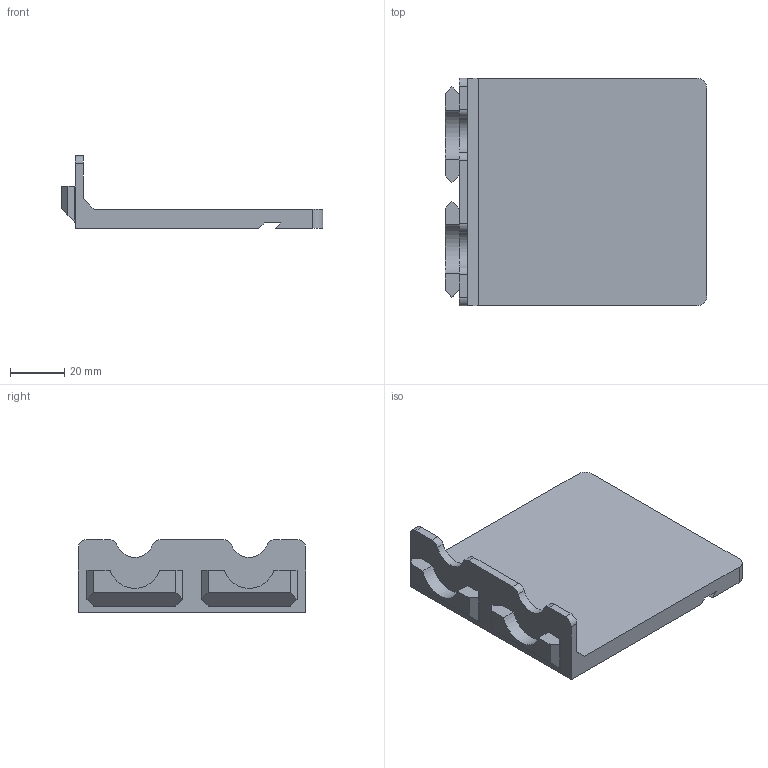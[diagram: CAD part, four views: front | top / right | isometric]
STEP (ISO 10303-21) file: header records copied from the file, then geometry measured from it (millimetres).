
FILE_DESCRIPTION(/* description */ ('','CAx-IF Rec.Pracs.---Representation and Presentation of Product Manufacturing Information (PMI)---4.0---2014-10-13'),/* implementation_level */ '2;1');
FILE_NAME(/* name */ 'Goews 2x Hanger Shelf 2x.step',/* time_stamp */ '2024-11-28T18:04:31-05:00',/* author */ (''),/* organization */ (''),/* preprocessor_version */ 'ST-DEVELOPER v20',/* originating_system */ 'Autodesk Translation Framework v13.20.0.188',/* authorisation */ '');
FILE_SCHEMA (('AP242_MANAGED_MODEL_BASED_3D_ENGINEERING_MIM_LF { 1 0 10303 442 1 1 4 }'));
Length unit declared in the file: millimetre
Products named in the file (1): Goews 2x Hanger Shelf 2x
Bounding box: 96.15 x 83.6 x 26.72 mm (x, y, z)
Volume: 60066 mm3; surface area: 21913 mm2
Topology: 1 solids, 1 shells, 49 faces, 131 edges, 86 vertices
Faces by surface type: plane 37, cylinder 12
Entity records: 1550 total; most frequent: CARTESIAN_POINT 267, ORIENTED_EDGE 262, DIRECTION 255, EDGE_CURVE 131, LINE 107, VECTOR 107, VERTEX_POINT 86, AXIS2_PLACEMENT_3D 74
